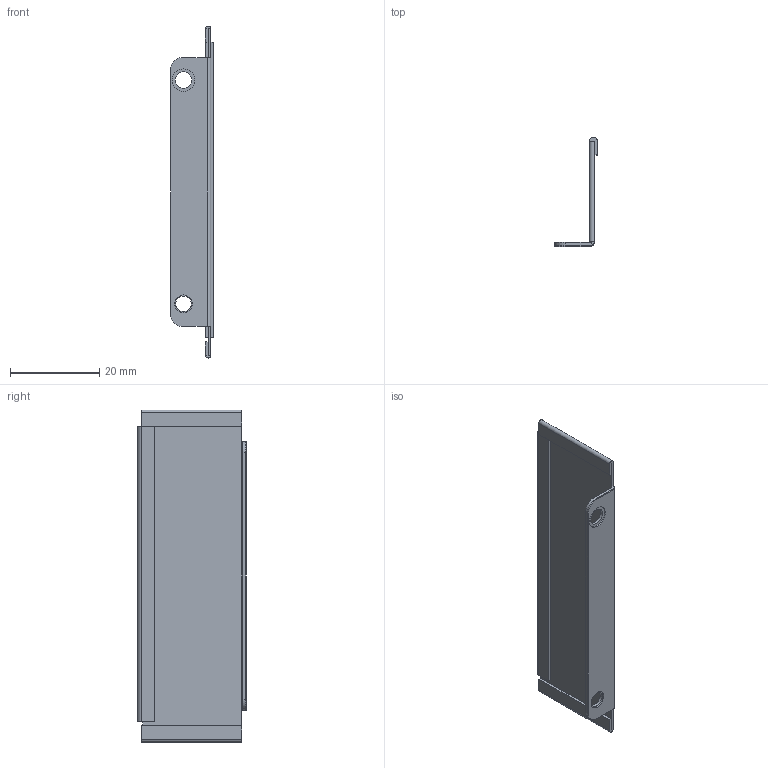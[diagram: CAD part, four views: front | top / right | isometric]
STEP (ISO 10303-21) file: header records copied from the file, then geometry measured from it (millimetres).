
FILE_DESCRIPTION((''),'2;1');
FILE_NAME('123400001978A_PDU-PCB-BAFFLER_ASM','2019-06-19T',('george_hsu'),(''),'PRO/ENGINEER BY PARAMETRIC TECHNOLOGY CORPORATION, 2012480','PRO/ENGINEER BY PARAMETRIC TECHNOLOGY CORPORATION, 2012480','');
FILE_SCHEMA(('AUTOMOTIVE_DESIGN { 1 0 10303 214 1 1 1 1 }'));
Length unit declared in the file: millimetre
Products named in the file (4): PDU-PCB-BAFFLER-BRK; PDU-PCB-BAFFLER-INSULATOR; PDU-PCB-BAFFLER-SPONGE; 123400001978A_PDU-PCB-BAFFLER_ASM
Assembly tree (3 placements, depth 2):
  123400001978A_PDU-PCB-BAFFLER_ASM
    PDU-PCB-BAFFLER-BRK
    PDU-PCB-BAFFLER-INSULATOR
    PDU-PCB-BAFFLER-SPONGE
Bounding box: 9.6 x 24.35 x 74.2 mm (x, y, z)
Volume: 1824.2 mm3; surface area: 6837.2 mm2
Topology: 3 solids, 3 shells, 66 faces, 156 edges, 96 vertices
Faces by surface type: plane 45, cylinder 21
Entity records: 2557 total; most frequent: DIRECTION 344, CARTESIAN_POINT 335, ORIENTED_EDGE 312, EDGE_CURVE 156, AXIS2_PLACEMENT_3D 115, VECTOR 114, LINE 114, VERTEX_POINT 96
